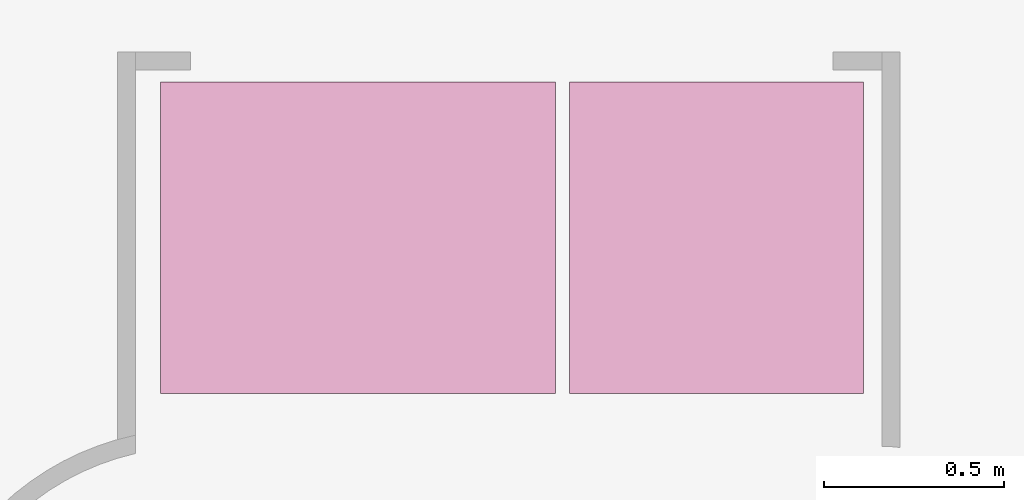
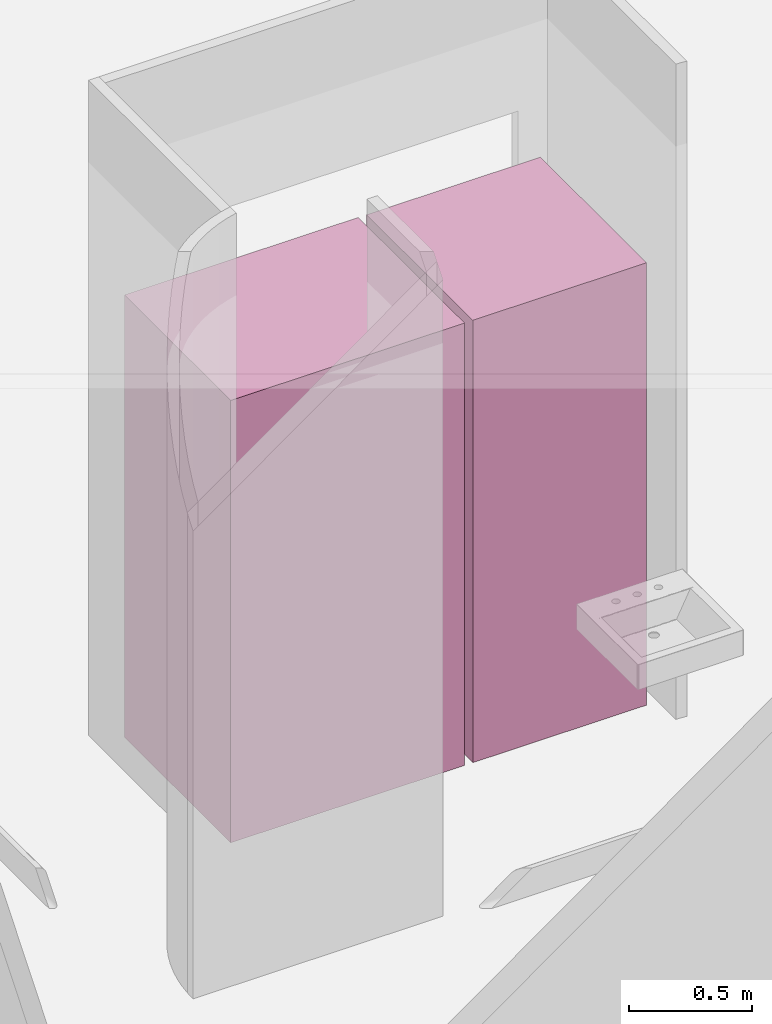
# One storey, part 4 of 6: 1 furnishing.
"""IFC2X3 building model written with IfcOpenShell, lengths in metres."""

from ifc_helpers import new_model, entity, si_unit, converted_unit, derived_unit, direction, frame, frame_2d, origin, place, context, subcontext, project, spatial, rectangle, extrude, source, transform, mapped, material, type_object, type_shapes, element, save


model = new_model("IFC2X3")

# Units and contexts
model_context = context("Model", 3, precision=1e-05, world=origin(), true_north=direction((6.12303176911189e-17, 1.0)))
body_context = subcontext(model_context, "Body", "Model", "MODEL_VIEW")
ifc_project = project(units=[si_unit("LENGTHUNIT", "METRE"), si_unit("AREAUNIT", "SQUARE_METRE"), si_unit("VOLUMEUNIT", "CUBIC_METRE"), converted_unit("PLANEANGLEUNIT", "DEGREE", entity("IfcRatioMeasure", 0.0174532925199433), si_unit("PLANEANGLEUNIT", "RADIAN"), dimensions=[0, 0, 0, 0, 0, 0, 0]), si_unit("MASSUNIT", "GRAM", prefix="KILO"), derived_unit("MASSDENSITYUNIT", [(si_unit("MASSUNIT", "GRAM", prefix="KILO"), 1), (si_unit("LENGTHUNIT", "METRE"), -3)]), derived_unit("MOMENTOFINERTIAUNIT", [(si_unit("LENGTHUNIT", "METRE"), 4)]), si_unit("TIMEUNIT", "SECOND"), si_unit("FREQUENCYUNIT", "HERTZ"), si_unit("THERMODYNAMICTEMPERATUREUNIT", "DEGREE_CELSIUS"), derived_unit("THERMALTRANSMITTANCEUNIT", [(si_unit("MASSUNIT", "GRAM", prefix="KILO"), 1), (si_unit("THERMODYNAMICTEMPERATUREUNIT", "KELVIN"), -1), (si_unit("TIMEUNIT", "SECOND"), -3)]), derived_unit("VOLUMETRICFLOWRATEUNIT", [(si_unit("LENGTHUNIT", "METRE"), 3), (si_unit("TIMEUNIT", "SECOND"), -1)]), si_unit("ELECTRICCURRENTUNIT", "AMPERE"), si_unit("ELECTRICVOLTAGEUNIT", "VOLT"), si_unit("POWERUNIT", "WATT"), si_unit("FORCEUNIT", "NEWTON", prefix="KILO"), si_unit("ILLUMINANCEUNIT", "LUX"), si_unit("LUMINOUSFLUXUNIT", "LUMEN"), si_unit("LUMINOUSINTENSITYUNIT", "CANDELA"), derived_unit("USERDEFINED", [(si_unit("MASSUNIT", "GRAM", prefix="KILO"), -1), (si_unit("LENGTHUNIT", "METRE"), -2), (si_unit("TIMEUNIT", "SECOND"), 3), (si_unit("LUMINOUSFLUXUNIT", "LUMEN"), 1)]), derived_unit("LINEARVELOCITYUNIT", [(si_unit("LENGTHUNIT", "METRE"), 1), (si_unit("TIMEUNIT", "SECOND"), -1)]), si_unit("PRESSUREUNIT", "PASCAL"), derived_unit("USERDEFINED", [(si_unit("LENGTHUNIT", "METRE"), -2), (si_unit("MASSUNIT", "GRAM", prefix="KILO"), 1), (si_unit("TIMEUNIT", "SECOND"), -2)]), derived_unit("LINEARFORCEUNIT", [(si_unit("MASSUNIT", "GRAM", prefix="KILO"), 1), (si_unit("LENGTHUNIT", "METRE"), 1), (si_unit("TIMEUNIT", "SECOND"), -2), (si_unit("LENGTHUNIT", "METRE"), -1)]), derived_unit("PLANARFORCEUNIT", [(si_unit("MASSUNIT", "GRAM", prefix="KILO"), 1), (si_unit("LENGTHUNIT", "METRE"), 1), (si_unit("TIMEUNIT", "SECOND"), -2), (si_unit("LENGTHUNIT", "METRE"), -2)])], contexts=[model_context])

# Site, building, storey
site_placement = place(None, origin())
site = spatial("IfcSite", under=ifc_project, at=site_placement, Name="Default", CompositionType="ELEMENT")
building_placement = place(site_placement, origin())
building = spatial("IfcBuilding", under=site, at=building_placement, CompositionType="ELEMENT")
storey_placement = place(building_placement, frame((0.0, 0.0, 2.31330827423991)))
storey = spatial("IfcBuildingStorey", under=building, at=storey_placement, Name="Niveau 00 - 03", CompositionType="ELEMENT", Elevation=2.31330827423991)

# Furnishing
ifc_material = material(Name="@_Finition Peinture - Blanc satiné")
furniture_type = type_object("IfcFurnitureType", Name="Mobilier 1:Mobilier 1", material=ifc_material)
shared_shape = source(origin(), body_context, "Body", "SweptSolid", [
    extrude(rectangle(XDim=0.865992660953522, YDim=1.1, at=frame_2d((1.08246744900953e-15, 0.0), x_axis=(1.0, 0.0))), frame((-20.9005797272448, 18.4641806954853, 2.31330827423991), z_axis=(0.0, 0.0, 1.0), x_axis=(0.0, -1.0, 0.0)), (0.0, 0.0, 1.0), 2.2),
    extrude(rectangle(XDim=0.817975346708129, YDim=0.865992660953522, at=frame_2d((0.0, 1.08246744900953e-15), x_axis=(1.0, 0.0))), frame((-19.9030469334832, 18.4641806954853, 2.31330827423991), z_axis=(0.0, 0.0, 1.0), x_axis=(-1.0, 0.0, 0.0)), (0.0, 0.0, 1.0), 2.2),
])
type_shapes(furniture_type, [shared_shape])
furnishing_placement = place(storey_placement, frame((0.0, 0.0, -2.31330827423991)))
element("IfcFurnishingElement", 1, at=furnishing_placement, inside=storey, type_object=furniture_type, material=ifc_material, Name="Mobilier 1:Mobilier 1", ObjectType="Mobilier 1:Mobilier 1", context=body_context, shape_type="MappedRepresentation", body=[
    mapped(shared_shape, transform((0.0, 0.0, 0.0), scale=1.0)),
])

save(model, "model.ifc")
